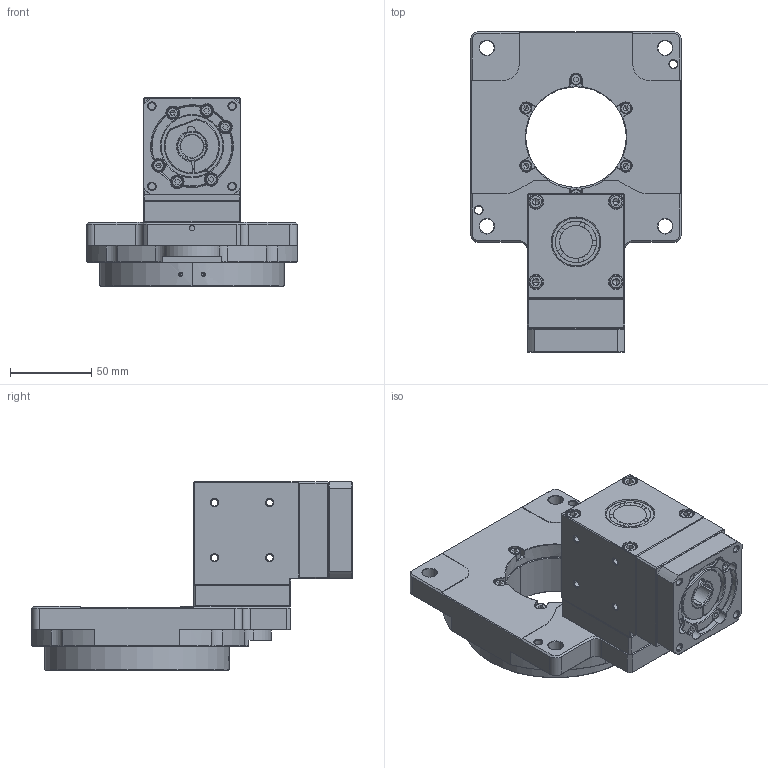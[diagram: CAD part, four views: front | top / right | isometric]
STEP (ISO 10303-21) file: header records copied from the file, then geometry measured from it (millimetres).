
FILE_DESCRIPTION (( 'STEP AP203' ), '1' );
FILE_NAME ('HRG130Z 蚾饜极.STEP', '2022-08-03T05:54:20', ( 'Windows User' ), ( 'P R C' ), 'SwSTEP 2.0', 'SolidWorks 2020', '' );
FILE_SCHEMA (( 'CONFIG_CONTROL_DESIGN' ));
Length unit declared in the file: millimetre
Products named in the file (1): HRG130Z 蚾饜极
Bounding box: 130 x 197.8 x 116.5 mm (x, y, z)
Surface area: 121895.9 mm2 (no closed solid volume)
Topology: 0 solids, 41 shells, 784 faces, 2273 edges, 1476 vertices
Faces by surface type: plane 316, cone 207, cylinder 197, torus 55, bspline 9
Entity records: 26399 total; most frequent: CARTESIAN_POINT 5702, DIRECTION 4507, ORIENTED_EDGE 3879, EDGE_CURVE 2253, AXIS2_PLACEMENT_3D 1691, VERTEX_POINT 1476, LINE 1125, VECTOR 1125
